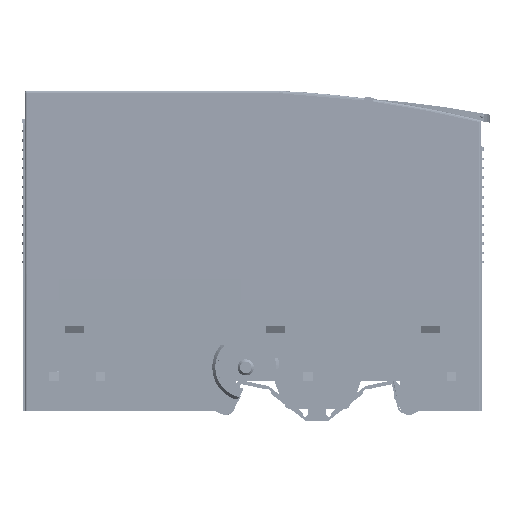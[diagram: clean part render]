
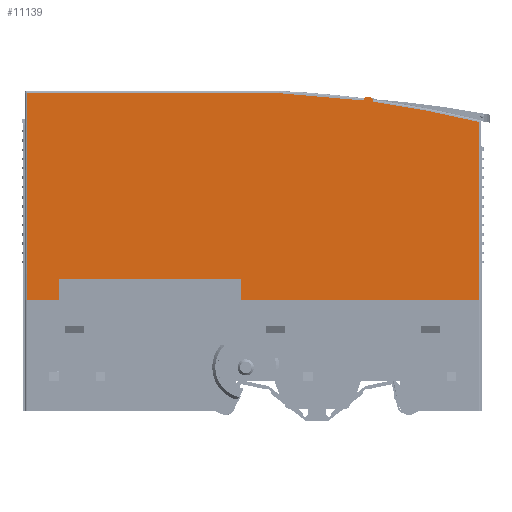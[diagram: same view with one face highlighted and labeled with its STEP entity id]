
A CAD part, left-side view. The second image highlights one B-rep face of the part: STEP entity #11139.
In plain terms, the highlighted planar face has unit normal (-1, 0, 0.005) as drawn and (0, -0.005, 1) by its records, which use the part's own axes.
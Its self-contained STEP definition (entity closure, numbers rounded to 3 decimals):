
#435=DIRECTION('',(0.,-1.,-0.005));
#436=VECTOR('',#435,1.25);
#437=CARTESIAN_POINT('',(8.2,-2.13,3.46));
#438=LINE('',#437,#436);
#519=DIRECTION('',(-1.,0.,0.));
#520=VECTOR('',#519,6.93);
#521=CARTESIAN_POINT('',(97.53,-2.13,3.46));
#522=LINE('',#521,#520);
#535=DIRECTION('',(-1.,0.,0.));
#536=VECTOR('',#535,7.1);
#537=CARTESIAN_POINT('',(8.2,-2.13,3.46));
#538=LINE('',#537,#536);
#631=DIRECTION('',(0.,-1.,-0.005));
#632=VECTOR('',#631,2.1);
#633=CARTESIAN_POINT('',(1.1,-2.13,3.46));
#634=LINE('',#633,#632);
#635=CARTESIAN_POINT('',(25.391,-47.406,3.223));
#636=CARTESIAN_POINT('',(28.322,-47.782,3.221));
#637=CARTESIAN_POINT('',(34.321,-48.435,3.218));
#638=CARTESIAN_POINT('',(40.601,-48.857,3.215));
#639=CARTESIAN_POINT('',(43.811,-49.003,3.215));
#641=CARTESIAN_POINT('',(0.5,-42.772,3.247));
#642=CARTESIAN_POINT('',(3.003,-43.386,3.244));
#643=CARTESIAN_POINT('',(8.036,-44.528,3.238));
#644=CARTESIAN_POINT('',(15.556,-45.967,3.23));
#645=CARTESIAN_POINT('',(20.769,-46.78,3.226));
#646=CARTESIAN_POINT('',(23.409,-47.143,3.224));
#648=DIRECTION('',(0.,-1.,-0.005));
#649=VECTOR('',#648,38.542);
#650=CARTESIAN_POINT('',(0.5,-4.23,3.449));
#651=LINE('',#650,#649);
#652=DIRECTION('',(1.,0.,0.));
#653=VECTOR('',#652,0.6);
#654=CARTESIAN_POINT('',(0.5,-4.23,3.449));
#655=LINE('',#654,#653);
#656=DIRECTION('',(1.,0.,0.));
#657=VECTOR('',#656,0.6);
#658=CARTESIAN_POINT('',(97.53,-4.23,3.449));
#659=LINE('',#658,#657);
#660=DIRECTION('',(0.,1.,0.005));
#661=VECTOR('',#660,44.773);
#662=CARTESIAN_POINT('',(98.13,-49.003,3.215));
#663=LINE('',#662,#661);
#664=DIRECTION('',(1.,0.,0.));
#665=VECTOR('',#664,54.319);
#666=CARTESIAN_POINT('',(43.811,-49.003,3.215));
#667=LINE('',#666,#665);
#927=DIRECTION('',(0.,1.,0.005));
#928=VECTOR('',#927,2.1);
#929=CARTESIAN_POINT('',(97.53,-4.23,3.449));
#930=LINE('',#929,#928);
#3455=DIRECTION('',(0.,1.,0.005));
#3456=VECTOR('',#3455,1.25);
#3457=CARTESIAN_POINT('',(90.6,-3.38,3.453));
#3458=LINE('',#3457,#3456);
#3463=DIRECTION('',(1.,0.,0.));
#3464=VECTOR('',#3463,5.4);
#3465=CARTESIAN_POINT('',(85.2,-3.38,3.453));
#3466=LINE('',#3465,#3464);
#3479=DIRECTION('',(0.,-1.,-0.005));
#3480=VECTOR('',#3479,1.25);
#3481=CARTESIAN_POINT('',(85.2,-2.13,3.46));
#3482=LINE('',#3481,#3480);
#3487=DIRECTION('',(0.,1.,0.005));
#3488=VECTOR('',#3487,1.25);
#3489=CARTESIAN_POINT('',(52.1,-3.38,3.453));
#3490=LINE('',#3489,#3488);
#3503=DIRECTION('',(-1.,0.,0.));
#3504=VECTOR('',#3503,33.1);
#3505=CARTESIAN_POINT('',(85.2,-2.13,3.46));
#3506=LINE('',#3505,#3504);
#3511=DIRECTION('',(1.,0.,0.));
#3512=VECTOR('',#3511,5.4);
#3513=CARTESIAN_POINT('',(46.7,-3.38,3.453));
#3514=LINE('',#3513,#3512);
#3527=DIRECTION('',(0.,-1.,-0.005));
#3528=VECTOR('',#3527,1.25);
#3529=CARTESIAN_POINT('',(46.7,-2.13,3.46));
#3530=LINE('',#3529,#3528);
#3535=DIRECTION('',(0.,1.,0.005));
#3536=VECTOR('',#3535,1.25);
#3537=CARTESIAN_POINT('',(13.6,-3.38,3.453));
#3538=LINE('',#3537,#3536);
#3551=DIRECTION('',(1.,0.,0.));
#3552=VECTOR('',#3551,33.1);
#3553=CARTESIAN_POINT('',(13.6,-2.13,3.46));
#3554=LINE('',#3553,#3552);
#3559=DIRECTION('',(1.,0.,0.));
#3560=VECTOR('',#3559,5.4);
#3561=CARTESIAN_POINT('',(8.2,-3.38,3.453));
#3562=LINE('',#3561,#3560);
#5330=CARTESIAN_POINT('',(23.409,-47.143,3.224));
#5331=CARTESIAN_POINT('',(23.393,-47.259,3.224));
#5332=CARTESIAN_POINT('',(23.402,-47.517,3.222));
#5333=CARTESIAN_POINT('',(23.582,-47.9,3.22));
#5334=CARTESIAN_POINT('',(23.907,-48.174,3.219));
#5335=CARTESIAN_POINT('',(24.265,-48.286,3.218));
#5336=CARTESIAN_POINT('',(24.641,-48.272,3.218));
#5337=CARTESIAN_POINT('',(25.026,-48.092,3.219));
#5338=CARTESIAN_POINT('',(25.3,-47.77,3.221));
#5339=CARTESIAN_POINT('',(25.376,-47.523,3.222));
#5340=CARTESIAN_POINT('',(25.391,-47.406,3.223));
#9618=CARTESIAN_POINT('',(13.6,-2.13,3.46));
#9619=CARTESIAN_POINT('',(46.7,-2.13,3.46));
#9620=VERTEX_POINT('',#9618);
#9621=VERTEX_POINT('',#9619);
#9622=CARTESIAN_POINT('',(85.2,-2.13,3.46));
#9623=CARTESIAN_POINT('',(52.1,-2.13,3.46));
#9624=VERTEX_POINT('',#9622);
#9625=VERTEX_POINT('',#9623);
#9626=CARTESIAN_POINT('',(8.2,-3.38,3.453));
#9627=CARTESIAN_POINT('',(13.6,-3.38,3.453));
#9628=VERTEX_POINT('',#9626);
#9629=VERTEX_POINT('',#9627);
#9630=CARTESIAN_POINT('',(46.7,-3.38,3.453));
#9631=CARTESIAN_POINT('',(52.1,-3.38,3.453));
#9632=VERTEX_POINT('',#9630);
#9633=VERTEX_POINT('',#9631);
#9634=CARTESIAN_POINT('',(85.2,-3.38,3.453));
#9635=CARTESIAN_POINT('',(90.6,-3.38,3.453));
#9636=VERTEX_POINT('',#9634);
#9637=VERTEX_POINT('',#9635);
#9638=CARTESIAN_POINT('',(8.2,-2.13,3.46));
#9639=VERTEX_POINT('',#9638);
#9640=CARTESIAN_POINT('',(90.6,-2.13,3.46));
#9641=VERTEX_POINT('',#9640);
#9642=VERTEX_POINT('',#635);
#9643=VERTEX_POINT('',#639);
#9648=CARTESIAN_POINT('',(98.13,-49.003,3.215));
#9649=VERTEX_POINT('',#9648);
#9656=CARTESIAN_POINT('',(98.13,-4.23,3.449));
#9657=VERTEX_POINT('',#9656);
#9658=CARTESIAN_POINT('',(0.5,-4.23,3.449));
#9659=CARTESIAN_POINT('',(0.5,-42.772,
3.247));
#9660=VERTEX_POINT('',#9658);
#9661=VERTEX_POINT('',#9659);
#9668=VERTEX_POINT('',#646);
#9877=CARTESIAN_POINT('',(1.1,-2.13,3.46));
#9878=VERTEX_POINT('',#9877);
#9879=CARTESIAN_POINT('',(97.53,-2.13,3.46));
#9880=VERTEX_POINT('',#9879);
#9881=CARTESIAN_POINT('',(97.53,-4.23,3.449));
#9882=VERTEX_POINT('',#9881);
#9883=CARTESIAN_POINT('',(1.1,-4.23,3.449));
#9884=VERTEX_POINT('',#9883);
#11090=CARTESIAN_POINT('',(0.,0.,3.471));
#11091=DIRECTION('',(0.,-0.005,1.));
#11092=DIRECTION('',(1.,0.,0.));
#11093=AXIS2_PLACEMENT_3D('',#11090,#11091,#11092);
#11094=PLANE('',#11093);
#11096=ORIENTED_EDGE('',*,*,#11095,.F.);
#11098=ORIENTED_EDGE('',*,*,#11097,.F.);
#11100=ORIENTED_EDGE('',*,*,#11099,.F.);
#11102=ORIENTED_EDGE('',*,*,#11101,.F.);
#11104=ORIENTED_EDGE('',*,*,#11103,.T.);
#11105=ORIENTED_EDGE('',*,*,#11083,.F.);
#11106=ORIENTED_EDGE('',*,*,#10956,.F.);
#11107=ORIENTED_EDGE('',*,*,#10803,.T.);
#11109=ORIENTED_EDGE('',*,*,#11108,.T.);
#11111=ORIENTED_EDGE('',*,*,#11110,.T.);
#11113=ORIENTED_EDGE('',*,*,#11112,.T.);
#11115=ORIENTED_EDGE('',*,*,#11114,.T.);
#11117=ORIENTED_EDGE('',*,*,#11116,.T.);
#11119=ORIENTED_EDGE('',*,*,#11118,.T.);
#11121=ORIENTED_EDGE('',*,*,#11120,.F.);
#11123=ORIENTED_EDGE('',*,*,#11122,.T.);
#11125=ORIENTED_EDGE('',*,*,#11124,.T.);
#11127=ORIENTED_EDGE('',*,*,#11126,.T.);
#11128=ORIENTED_EDGE('',*,*,#10942,.F.);
#11130=ORIENTED_EDGE('',*,*,#11129,.F.);
#11132=ORIENTED_EDGE('',*,*,#11131,.T.);
#11134=ORIENTED_EDGE('',*,*,#11133,.F.);
#11136=ORIENTED_EDGE('',*,*,#11135,.F.);
#11137=EDGE_LOOP('',(#11096,#11098,#11100,#11102,#11104,#11105,#11106,#11107,
#11109,#11111,#11113,#11115,#11117,#11119,#11121,#11123,#11125,#11127,#11128,
#11130,#11132,#11134,#11136));
#11138=FACE_OUTER_BOUND('',#11137,.F.);
#11139=ADVANCED_FACE('',(#11138),#11094,.T.);
#640=B_SPLINE_CURVE_WITH_KNOTS('',3,(#635,#636,#637,#638,#639),.UNSPECIFIED.,
.F.,.F.,(4,1,4),(0.,0.5,1.),.UNSPECIFIED.);
#647=B_SPLINE_CURVE_WITH_KNOTS('',3,(#641,#642,#643,#644,#645,#646),
.UNSPECIFIED.,.F.,.F.,(4,1,1,4),(0.,0.333,0.667,1.),
.UNSPECIFIED.);
#5341=B_SPLINE_CURVE_WITH_KNOTS('',3,(#5330,#5331,#5332,#5333,#5334,#5335,#5336,
#5337,#5338,#5339,#5340),.UNSPECIFIED.,.F.,.F.,(4,1,1,1,1,1,1,1,4),(0.,
0.125,0.25,0.375,0.5,0.625,0.75,0.875,1.),.UNSPECIFIED.);
#10803=EDGE_CURVE('',#9639,#9628,#438,.T.);
#10942=EDGE_CURVE('',#9880,#9641,#522,.T.);
#10956=EDGE_CURVE('',#9639,#9878,#538,.T.);
#11083=EDGE_CURVE('',#9878,#9884,#634,.T.);
#11095=EDGE_CURVE('',#9642,#9643,#640,.T.);
#11097=EDGE_CURVE('',#9668,#9642,#5341,.T.);
#11099=EDGE_CURVE('',#9661,#9668,#647,.T.);
#11101=EDGE_CURVE('',#9660,#9661,#651,.T.);
#11103=EDGE_CURVE('',#9660,#9884,#655,.T.);
#11108=EDGE_CURVE('',#9628,#9629,#3562,.T.);
#11110=EDGE_CURVE('',#9629,#9620,#3538,.T.);
#11112=EDGE_CURVE('',#9620,#9621,#3554,.T.);
#11114=EDGE_CURVE('',#9621,#9632,#3530,.T.);
#11116=EDGE_CURVE('',#9632,#9633,#3514,.T.);
#11118=EDGE_CURVE('',#9633,#9625,#3490,.T.);
#11120=EDGE_CURVE('',#9624,#9625,#3506,.T.);
#11122=EDGE_CURVE('',#9624,#9636,#3482,.T.);
#11124=EDGE_CURVE('',#9636,#9637,#3466,.T.);
#11126=EDGE_CURVE('',#9637,#9641,#3458,.T.);
#11129=EDGE_CURVE('',#9882,#9880,#930,.T.);
#11131=EDGE_CURVE('',#9882,#9657,#659,.T.);
#11133=EDGE_CURVE('',#9649,#9657,#663,.T.);
#11135=EDGE_CURVE('',#9643,#9649,#667,.T.);
